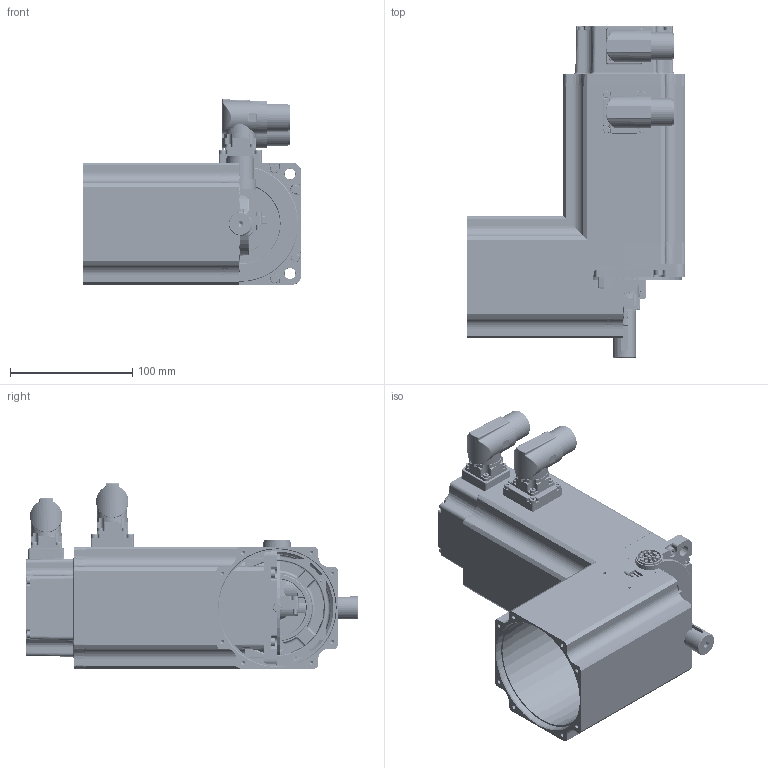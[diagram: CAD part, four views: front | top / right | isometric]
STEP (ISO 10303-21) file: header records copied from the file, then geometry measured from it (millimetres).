
FILE_DESCRIPTION( ( 'Unknown' ), '1' );
FILE_NAME( 'K:/121010-AL Files 3D Step con chiavetta/Q0A517_8.stp', 'Unknown', ( 'Unknown' ), ( 'Unknown' ), 'PSStep 14.0', 'Unknown', ' ' );
FILE_SCHEMA( ( 'AUTOMOTIVE_DESIGN { 1 0 10303 214 1 1 1 1 }' ) );
Length unit declared in the file: millimetre
Products named in the file (39): BLOCCHETTO x CN_(N45204); Assem1; N45204; N35210; Vite a brugola testa cil 8,8 -  M 2,5 x 4; Vite a brugola testa cil 8,8 -  M  3 x 12; cavo di terra sez1,5_M3_(N13A15) x CN; anello-elastico-chiuso  52; Vite a brugola testa cil 8,8 -  M  4 x 30; A-Ela 20 P; LI-PIA   6x6 x 30; N11235; N09447; N33454; CUSC_20_52_15_6304_ZZ; CUSC_20_47_14_6204_ZZ; Vite a brugola testa cil 8,8 -  M  4 x 12; Vite a brugola testa cil 8,8 -  M  3 x 40; Vite a brugola testa cil 8,8 -  M  3 x 40-oa0; Vite a brugola testa cil 8,8 -  M  3 x 40-oa1; Vite a brugola testa cil 8,8 -  M  3 x 40-oa2; Vite a brugola testa cil 8,8 -  M 2,5 x 8; CN M23 PAN-POT BEDC 110 4+4 pin 90°o SpTcR; CN M23 PAN-SEG AEDC 139 17 pin 90°o SpTcR; N01597_9; N25412_9
Bounding box: 179 x 271.5 x 151.96 mm (x, y, z)
Volume: 1646000.8 mm3; surface area: 619722 mm2
Topology: 102 solids, 106 shells, 4384 faces, 10650 edges, 6746 vertices
Faces by surface type: plane 2009, cylinder 1176, cone 396, torus 323, bspline 308, sphere 110, extrusion 62
Full cylindrical faces by diameter (mm): 2 x50, 2.013 x15, 2.459 x36, 2.5 x32, 2.7 x16, 3 x25, 3.2 x3, 3.242 x50, 3.5 x32, 4 x14, 4.7 x12, 4.917 x2, 5.5 x17, 7 x14, 8 x2, 17 x4, 19 x4, 19.8 x4, 19.99 x2, 20 x17, 21.3 x4, 23 x4, 24.5 x4, 25 x4, 28.64 x8, 30.24 x8, 33 x4, 36 x6, 38.36 x8, 39 x12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
Entity records: 77820 total; most frequent: CARTESIAN_POINT 21864, DIRECTION 8935, ORIENTED_EDGE 8518, EDGE_CURVE 4259, AXIS2_PLACEMENT_3D 3370, VERTEX_POINT 2891, EDGE_LOOP 2501, VECTOR 2195
